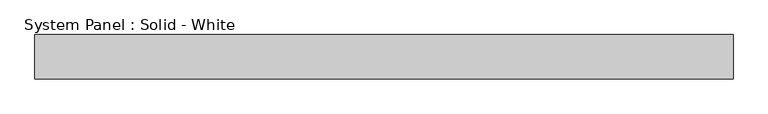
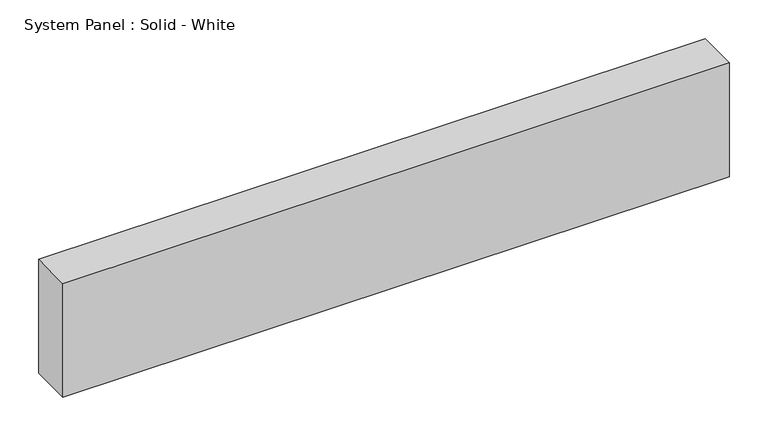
"""IFC4 building model written with IfcOpenShell, lengths in millimetres: plate geometry, System Panel : Solid - White."""

import ifcopenshell
import ifcopenshell.guid

model = None  # the IFC model being written
_history = None  # IfcOwnerHistory: only IFC2X3 demands one
_inside = {}  # id of a spatial element -> (the spatial element, [elements in it])
_under = {}  # id of a project, library or spatial element -> (it, [spatial elements below it])
_declared = {}  # id of a project -> (the project, [libraries it declares])
_typed = {}  # id of a type object -> (the type object, [elements of that type])
_made_of = {}  # id of a material, layer set ... -> (it, [elements and type objects made of it])


def new_model(schema):
    """Start an empty IFC model of exactly this schema.

    Asked for "IFC4X3", IfcOpenShell would pick the latest addendum, in which some entities
    have other attributes; the version numbers below select the first issue.
    IFC2X3 requires an IfcOwnerHistory on every rooted entity: one is made here for all.
    """
    global model, _history
    if schema == "IFC4X3":
        model = ifcopenshell.file(schema_version=(4, 3, 0, 0))
    else:
        model = ifcopenshell.file(schema=schema)
    _inside.clear()
    _under.clear()
    _declared.clear()
    _typed.clear()
    _made_of.clear()
    _history = None
    if model.schema == "IFC2X3":
        org = make("IfcOrganization", Name="unknown")
        user = make(
            "IfcPersonAndOrganization",
            ThePerson=make("IfcPerson", FamilyName="unknown"),
            TheOrganization=org,
        )
        app = make(
            "IfcApplication",
            ApplicationDeveloper=org,
            Version="unknown",
            ApplicationFullName="unknown",
            ApplicationIdentifier="unknown",
        )
        _history = make(
            "IfcOwnerHistory",
            OwningUser=user,
            OwningApplication=app,
            ChangeAction="ADDED",
            CreationDate=0,
        )
    return model


def make(cls, **values):
    """One entity of the class cls with the attributes given. An attribute that is None is left unset."""
    return model.create_entity(
        cls, **{name: value for name, value in values.items() if value is not None}
    )


def rooted(cls, **values):
    """An entity with a GlobalId (a new one), such as an element, a storey or a relation."""
    return make(cls, GlobalId=ifcopenshell.guid.new(), OwnerHistory=_history, **values)


def si_unit(unit_type, name, prefix=None):
    """IfcSIUnit, for example si_unit("LENGTHUNIT", "METRE", prefix="MILLI")."""
    return make("IfcSIUnit", UnitType=unit_type, Prefix=prefix, Name=name)


def assignment(units):
    """IfcUnitAssignment: the units of a project."""
    return None if units is None else make("IfcUnitAssignment", Units=units)


def point(xyz):
    """IfcCartesianPoint."""
    return None if xyz is None else make("IfcCartesianPoint", Coordinates=xyz)


def direction(xyz):
    """IfcDirection."""
    return None if xyz is None else make("IfcDirection", DirectionRatios=xyz)


def frame(location, z_axis=None, x_axis=None):
    """IfcAxis2Placement3D, a coordinate frame: its origin and axes. An axis left out is left unset."""
    return make(
        "IfcAxis2Placement3D",
        Location=point(location),
        Axis=direction(z_axis),
        RefDirection=direction(x_axis),
    )


def origin():
    """The frame at (0, 0, 0) with its axes left unset."""
    return frame((0.0, 0.0, 0.0))


def origin_with_axes():
    """The frame at (0, 0, 0) with the z axis (0, 0, 1) and the x axis (1, 0, 0) written out."""
    return frame((0.0, 0.0, 0.0), z_axis=(0.0, 0.0, 1.0), x_axis=(1.0, 0.0, 0.0))


def place(relative_to, where):
    """IfcLocalPlacement: puts the frame where relative to a parent placement (None: the world)."""
    return make(
        "IfcLocalPlacement", PlacementRelTo=relative_to, RelativePlacement=where
    )


def context(
    kind, dimensions, precision=None, world=None, true_north=None, identifier=None
):
    """IfcGeometricRepresentationContext, for example the 3D "Model" context."""
    return make(
        "IfcGeometricRepresentationContext",
        ContextIdentifier=identifier,
        ContextType=kind,
        CoordinateSpaceDimension=dimensions,
        Precision=precision,
        WorldCoordinateSystem=world,
        TrueNorth=true_north,
    )


def project(units=None, contexts=None):
    """IfcProject with its units and contexts."""
    return rooted(
        "IfcProject",
        Name="project",
        RepresentationContexts=contexts,
        UnitsInContext=assignment(units),
    )


def spatial(cls, under=None, at=None, **own):
    """A site, building, storey or space (cls), placed at a placement, below another one or the project."""
    s = rooted(cls, ObjectPlacement=at, **own)
    if under is not None:
        _under.setdefault(under.id(), (under, []))[1].append(s)
    return s


def polyline(points):
    """IfcPolyline through the points."""
    return make("IfcPolyline", Points=[point(p) for p in points])


def outline(outer, holes=None, kind="AREA"):
    """IfcArbitraryClosedProfileDef: a profile drawn as a closed curve; with holes, ...WithVoids."""
    if holes is None:
        return make("IfcArbitraryClosedProfileDef", ProfileType=kind, OuterCurve=outer)
    return make(
        "IfcArbitraryProfileDefWithVoids",
        ProfileType=kind,
        OuterCurve=outer,
        InnerCurves=holes,
    )


def extrude(swept, where, along, depth):
    """IfcExtrudedAreaSolid: the profile swept, set in the frame where, extruded along a direction by depth."""
    return make(
        "IfcExtrudedAreaSolid",
        SweptArea=swept,
        Position=where,
        ExtrudedDirection=direction(along),
        Depth=depth,
    )


def shape(context_of_items, identifier, shape_type, items):
    """IfcShapeRepresentation: the items that make up one representation, for example the "Body"."""
    return make(
        "IfcShapeRepresentation",
        ContextOfItems=context_of_items,
        RepresentationIdentifier=identifier,
        RepresentationType=shape_type,
        Items=items,
    )


def source(mapping_origin, context_of_items, identifier, shape_type, items):
    """IfcRepresentationMap: a shape defined once, which mapped items show again and again."""
    return make(
        "IfcRepresentationMap",
        MappingOrigin=mapping_origin,
        MappedRepresentation=shape(context_of_items, identifier, shape_type, items),
    )


def transform(
    local_origin,
    x_axis=None,
    y_axis=None,
    z_axis=None,
    scale=None,
    scale2=None,
    scale3=None,
    uniform=True,
):
    """IfcCartesianTransformationOperator3D, or its non-uniform kind. x_axis, y_axis, z_axis: its Axis1, 2, 3."""
    if uniform:
        return make(
            "IfcCartesianTransformationOperator3D",
            Axis1=direction(x_axis),
            Axis2=direction(y_axis),
            LocalOrigin=point(local_origin),
            Scale=scale,
            Axis3=direction(z_axis),
        )
    return make(
        "IfcCartesianTransformationOperator3DnonUniform",
        Axis1=direction(x_axis),
        Axis2=direction(y_axis),
        LocalOrigin=point(local_origin),
        Scale=scale,
        Axis3=direction(z_axis),
        Scale2=scale2,
        Scale3=scale3,
    )


def mapped(mapping_source, mapping_target):
    """IfcMappedItem: shows the shape of a source again, moved by a transform."""
    return make(
        "IfcMappedItem", MappingSource=mapping_source, MappingTarget=mapping_target
    )


def made_of(thing, what):
    """Note that an element or type object is made of a material, layer set ...; save() writes the relation."""
    if what is not None:
        _made_of.setdefault(what.id(), (what, []))[1].append(thing)
    return thing


def element(
    cls,
    number,
    at=None,
    inside=None,
    cuts=None,
    type_object=None,
    material=None,
    context=None,
    identifier="Body",
    shape_type=None,
    held_by="IfcProductDefinitionShape",
    body=None,
    shapes=None,
    **own,
):
    """One element of the class cls, such as IfcWall. Its Tag is "e" and its number.

    at: its placement. inside: the storey or other place that contains it. cuts: it is an
    opening in that element (IfcRelVoidsElement). A single representation is given by context,
    identifier, shape_type and body (its items); several are given by shapes. held_by: the class
    of the entity that holds the representations. save() writes the other relations.
    """
    e = rooted(cls, Tag="e%d" % number, ObjectPlacement=at, **own)
    if body is not None:
        shapes = [shape(context, identifier, shape_type, body)]
    if shapes is not None:
        e.Representation = make(held_by, Representations=shapes)
    if inside is not None:
        _inside.setdefault(inside.id(), (inside, []))[1].append(e)
    if cuts is not None:
        rooted(
            "IfcRelVoidsElement", RelatingBuildingElement=cuts, RelatedOpeningElement=e
        )
    if type_object is not None:
        _typed.setdefault(type_object.id(), (type_object, []))[1].append(e)
    return made_of(e, material)


def aggregate(whole, parts):
    """IfcRelAggregates: a whole, such as a stair, and the parts it consists of."""
    return rooted("IfcRelAggregates", RelatingObject=whole, RelatedObjects=parts)


def save(model, path):
    """Write the relations noted so far, then the file.

    IfcRelAggregates (storeys below a building ...), IfcRelContainedInSpatialStructure (elements
    in a storey), IfcRelDefinesByType, IfcRelAssociatesMaterial and IfcRelDeclares: one each for
    every whole, place, type object, material and project.
    """
    for whole, parts in _under.values():
        aggregate(whole, parts)
    for where, things in _inside.values():
        rooted(
            "IfcRelContainedInSpatialStructure",
            RelatedElements=things,
            RelatingStructure=where,
        )
    for kind, things in _typed.values():
        rooted("IfcRelDefinesByType", RelatedObjects=things, RelatingType=kind)
    for what, things in _made_of.values():
        rooted("IfcRelAssociatesMaterial", RelatedObjects=things, RelatingMaterial=what)
    for by, libraries in _declared.values():
        rooted("IfcRelDeclares", RelatingContext=by, RelatedDefinitions=libraries)
    model.write(path)


def system_panel_solid_white_11217af2(model_context):
    return source(origin(), model_context, "Body", "SweptSolid", [
        extrude(outline(polyline([(499.3821429, -19.05), (-499.3821429, -19.05), (-499.3821429, 44.45), (499.3821429, 44.45), (499.3821429, -19.05)])), origin_with_axes(), (0.0, 0.0, 1.0), 180.5027241),
    ])


if __name__ == "__main__":
    model = new_model("IFC4")
    model_context = context("Model", 3, world=origin())
    ifc_project = project(units=[si_unit("LENGTHUNIT", "METRE", prefix="MILLI")], contexts=[model_context])
    site = spatial("IfcSite", under=ifc_project)
    building = spatial("IfcBuilding", under=site)
    placement = place(None, origin())
    system_panel_solid_white_shape = system_panel_solid_white_11217af2(model_context)
    element("IfcPlate", 1, ObjectType="System Panel : Solid - White", at=placement, inside=building, context=model_context, shape_type="MappedRepresentation", body=[
        mapped(system_panel_solid_white_shape, transform((0.0, 0.0, 0.0), x_axis=(1.0, 0.0, 0.0), y_axis=(0.0, 1.0, 0.0), z_axis=(0.0, 0.0, 1.0))),
    ])
    save(model, "model.ifc")
